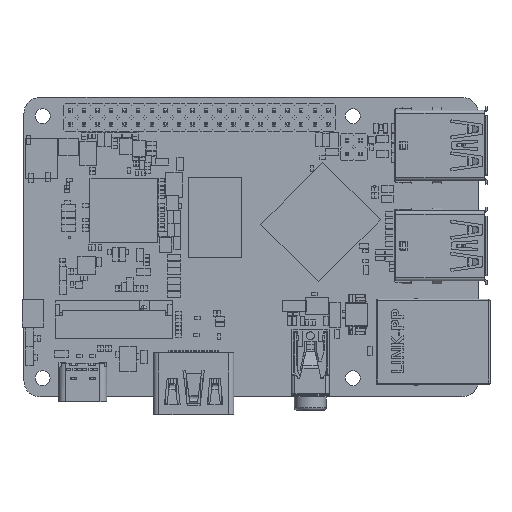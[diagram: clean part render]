
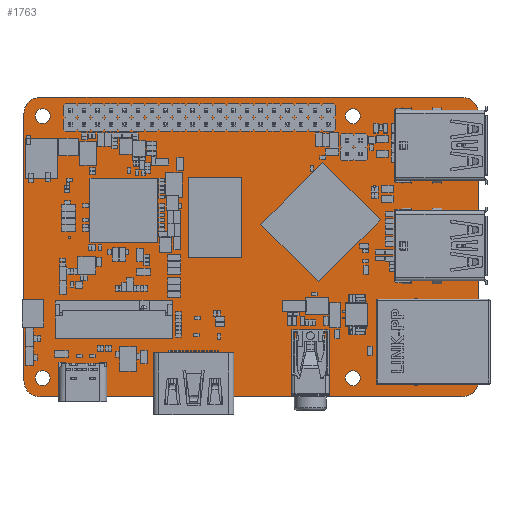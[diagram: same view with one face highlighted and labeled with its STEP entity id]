
A CAD part, top view. The second image highlights one B-rep face of the part: STEP entity #1763.
In plain terms, the highlighted planar face has unit normal (0, 0, 1).
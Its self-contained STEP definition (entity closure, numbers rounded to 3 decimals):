
#1253=CARTESIAN_POINT('',(-52.961,20.311,1.2));
#1254=DIRECTION('',(0.,0.,1.));
#1255=DIRECTION('',(0.,1.,0.));
#1256=AXIS2_PLACEMENT_3D('',#1253,#1254,#1255);
#1258=DIRECTION('',(-1.,0.,0.));
#1259=VECTOR('',#1258,79.032);
#1260=CARTESIAN_POINT('',(26.071,23.306,1.2));
#1261=LINE('',#1260,#1259);
#1262=CARTESIAN_POINT('',(26.071,20.333,1.2));
#1263=DIRECTION('',(0.,0.,1.));
#1264=DIRECTION('',(1.,0.,0.));
#1265=AXIS2_PLACEMENT_3D('',#1262,#1263,#1264);
#1267=DIRECTION('',(0.,1.,0.));
#1268=VECTOR('',#1267,49.938);
#1269=CARTESIAN_POINT('',(29.044,-29.605,1.2));
#1270=LINE('',#1269,#1268);
#1271=CARTESIAN_POINT('',(25.954,-29.605,1.2));
#1272=DIRECTION('',(0.,0.,1.));
#1273=DIRECTION('',(0.,-1.,0.));
#1274=AXIS2_PLACEMENT_3D('',#1271,#1272,#1273);
#1276=DIRECTION('',(1.,0.,0.));
#1277=VECTOR('',#1276,78.901);
#1278=CARTESIAN_POINT('',(-52.947,-32.694,1.2));
#1279=LINE('',#1278,#1277);
#1280=CARTESIAN_POINT('',(-52.947,-29.685,1.2));
#1281=DIRECTION('',(0.,0.,1.));
#1282=DIRECTION('',(-1.,0.,0.));
#1283=AXIS2_PLACEMENT_3D('',#1280,#1281,#1282);
#1285=DIRECTION('',(0.,-1.,0.));
#1286=VECTOR('',#1285,49.995);
#1287=CARTESIAN_POINT('',(-55.956,20.311,1.2));
#1288=LINE('',#1287,#1286);
#1289=CARTESIAN_POINT('',(-52.451,19.811,1.2));
#1290=DIRECTION('',(0.,0.,-1.));
#1291=DIRECTION('',(1.,0.,0.));
#1292=AXIS2_PLACEMENT_3D('',#1289,#1290,#1291);
#1294=CARTESIAN_POINT('',(-52.451,19.811,1.2));
#1295=DIRECTION('',(0.,0.,-1.));
#1296=DIRECTION('',(-1.,0.,0.));
#1297=AXIS2_PLACEMENT_3D('',#1294,#1295,#1296);
#1299=CARTESIAN_POINT('',(-52.458,-29.193,1.2));
#1300=DIRECTION('',(0.,0.,-1.));
#1301=DIRECTION('',(1.,0.,0.));
#1302=AXIS2_PLACEMENT_3D('',#1299,#1300,#1301);
#1304=CARTESIAN_POINT('',(-52.458,-29.193,1.2));
#1305=DIRECTION('',(0.,0.,-1.));
#1306=DIRECTION('',(-1.,0.,0.));
#1307=AXIS2_PLACEMENT_3D('',#1304,#1305,#1306);
#1309=CARTESIAN_POINT('',(5.543,19.808,1.2));
#1310=DIRECTION('',(0.,0.,-1.));
#1311=DIRECTION('',(1.,0.,0.));
#1312=AXIS2_PLACEMENT_3D('',#1309,#1310,#1311);
#1314=CARTESIAN_POINT('',(5.543,19.808,1.2));
#1315=DIRECTION('',(0.,0.,-1.));
#1316=DIRECTION('',(-1.,0.,0.));
#1317=AXIS2_PLACEMENT_3D('',#1314,#1315,#1316);
#1319=CARTESIAN_POINT('',(5.543,-29.187,1.2));
#1320=DIRECTION('',(0.,0.,-1.));
#1321=DIRECTION('',(1.,0.,0.));
#1322=AXIS2_PLACEMENT_3D('',#1319,#1320,#1321);
#1324=CARTESIAN_POINT('',(5.543,-29.187,1.2));
#1325=DIRECTION('',(0.,0.,-1.));
#1326=DIRECTION('',(-1.,0.,0.));
#1327=AXIS2_PLACEMENT_3D('',#1324,#1325,#1326);
#1329=CARTESIAN_POINT('',(-49.15,-16.818,1.2));
#1330=DIRECTION('',(0.,0.,1.));
#1331=DIRECTION('',(1.,0.,0.));
#1332=AXIS2_PLACEMENT_3D('',#1329,#1330,#1331);
#1334=CARTESIAN_POINT('',(-49.15,-16.818,1.2));
#1335=DIRECTION('',(0.,0.,1.));
#1336=DIRECTION('',(-1.,0.,0.));
#1337=AXIS2_PLACEMENT_3D('',#1334,#1335,#1336);
#1339=CARTESIAN_POINT('',(-29.15,-16.818,1.2));
#1340=DIRECTION('',(0.,0.,1.));
#1341=DIRECTION('',(1.,0.,0.));
#1342=AXIS2_PLACEMENT_3D('',#1339,#1340,#1341);
#1344=CARTESIAN_POINT('',(-29.15,-16.818,1.2));
#1345=DIRECTION('',(0.,0.,1.));
#1346=DIRECTION('',(-1.,0.,0.));
#1347=AXIS2_PLACEMENT_3D('',#1344,#1345,#1346);
#1429=CARTESIAN_POINT('',(-52.961,23.306,1.2));
#1430=CARTESIAN_POINT('',(-55.956,20.311,1.2));
#1431=VERTEX_POINT('',#1429);
#1432=VERTEX_POINT('',#1430);
#1433=CARTESIAN_POINT('',(-55.956,-29.685,1.2));
#1434=VERTEX_POINT('',#1433);
#1435=CARTESIAN_POINT('',(-52.947,-32.694,1.2));
#1436=VERTEX_POINT('',#1435);
#1437=CARTESIAN_POINT('',(25.954,-32.694,1.2));
#1438=VERTEX_POINT('',#1437);
#1439=CARTESIAN_POINT('',(29.044,-29.605,1.2));
#1440=VERTEX_POINT('',#1439);
#1441=CARTESIAN_POINT('',(29.044,20.333,1.2));
#1442=VERTEX_POINT('',#1441);
#1443=CARTESIAN_POINT('',(26.071,23.306,1.2));
#1444=VERTEX_POINT('',#1443);
#1445=CARTESIAN_POINT('',(-51.051,19.811,1.2));
#1446=CARTESIAN_POINT('',(-53.851,19.811,1.2));
#1447=VERTEX_POINT('',#1445);
#1448=VERTEX_POINT('',#1446);
#1449=CARTESIAN_POINT('',(-51.058,-29.193,1.2));
#1450=CARTESIAN_POINT('',(-53.858,-29.193,1.2));
#1451=VERTEX_POINT('',#1449);
#1452=VERTEX_POINT('',#1450);
#1453=CARTESIAN_POINT('',(6.943,19.808,1.2));
#1454=CARTESIAN_POINT('',(4.143,19.808,1.2));
#1455=VERTEX_POINT('',#1453);
#1456=VERTEX_POINT('',#1454);
#1457=CARTESIAN_POINT('',(6.943,-29.187,1.2));
#1458=CARTESIAN_POINT('',(4.143,-29.187,1.2));
#1459=VERTEX_POINT('',#1457);
#1460=VERTEX_POINT('',#1458);
#1469=CARTESIAN_POINT('',(-48.3,-16.818,1.2));
#1470=CARTESIAN_POINT('',(-50.,-16.818,1.2));
#1471=VERTEX_POINT('',#1469);
#1472=VERTEX_POINT('',#1470);
#1473=CARTESIAN_POINT('',(-28.55,-16.818,1.2));
#1474=CARTESIAN_POINT('',(-29.75,-16.818,1.2));
#1475=VERTEX_POINT('',#1473);
#1476=VERTEX_POINT('',#1474);
#1712=CARTESIAN_POINT('',(0.,0.,1.2));
#1713=DIRECTION('',(0.,0.,1.));
#1714=DIRECTION('',(1.,0.,0.));
#1715=AXIS2_PLACEMENT_3D('',#1712,#1713,#1714);
#1716=PLANE('',#1715);
#1717=ORIENTED_EDGE('',*,*,#1552,.F.);
#1718=ORIENTED_EDGE('',*,*,#1574,.F.);
#1719=ORIENTED_EDGE('',*,*,#1595,.F.);
#1720=ORIENTED_EDGE('',*,*,#1616,.F.);
#1721=ORIENTED_EDGE('',*,*,#1637,.F.);
#1722=ORIENTED_EDGE('',*,*,#1658,.F.);
#1723=ORIENTED_EDGE('',*,*,#1679,.F.);
#1724=ORIENTED_EDGE('',*,*,#1699,.F.);
#1725=EDGE_LOOP('',(#1717,#1718,#1719,#1720,#1721,#1722,#1723,#1724));
#1726=FACE_OUTER_BOUND('',#1725,.F.);
#1728=ORIENTED_EDGE('',*,*,#1727,.F.);
#1730=ORIENTED_EDGE('',*,*,#1729,.F.);
#1731=EDGE_LOOP('',(#1728,#1730));
#1732=FACE_BOUND('',#1731,.F.);
#1734=ORIENTED_EDGE('',*,*,#1733,.F.);
#1736=ORIENTED_EDGE('',*,*,#1735,.F.);
#1737=EDGE_LOOP('',(#1734,#1736));
#1738=FACE_BOUND('',#1737,.F.);
#1740=ORIENTED_EDGE('',*,*,#1739,.F.);
#1742=ORIENTED_EDGE('',*,*,#1741,.F.);
#1743=EDGE_LOOP('',(#1740,#1742));
#1744=FACE_BOUND('',#1743,.F.);
#1746=ORIENTED_EDGE('',*,*,#1745,.F.);
#1748=ORIENTED_EDGE('',*,*,#1747,.F.);
#1749=EDGE_LOOP('',(#1746,#1748));
#1750=FACE_BOUND('',#1749,.F.);
#1752=ORIENTED_EDGE('',*,*,#1751,.T.);
#1754=ORIENTED_EDGE('',*,*,#1753,.T.);
#1755=EDGE_LOOP('',(#1752,#1754));
#1756=FACE_BOUND('',#1755,.F.);
#1758=ORIENTED_EDGE('',*,*,#1757,.T.);
#1760=ORIENTED_EDGE('',*,*,#1759,.T.);
#1761=EDGE_LOOP('',(#1758,#1760));
#1762=FACE_BOUND('',#1761,.F.);
#1763=ADVANCED_FACE('',(#1726,#1732,#1738,#1744,#1750,#1756,#1762),#1716,.T.);
#1257=CIRCLE('',#1256,2.995);
#1266=CIRCLE('',#1265,2.973);
#1275=CIRCLE('',#1274,3.09);
#1284=CIRCLE('',#1283,3.009);
#1293=CIRCLE('',#1292,1.4);
#1298=CIRCLE('',#1297,1.4);
#1303=CIRCLE('',#1302,1.4);
#1308=CIRCLE('',#1307,1.4);
#1313=CIRCLE('',#1312,1.4);
#1318=CIRCLE('',#1317,1.4);
#1323=CIRCLE('',#1322,1.4);
#1328=CIRCLE('',#1327,1.4);
#1333=CIRCLE('',#1332,0.85);
#1338=CIRCLE('',#1337,0.85);
#1343=CIRCLE('',#1342,0.6);
#1348=CIRCLE('',#1347,0.6);
#1552=EDGE_CURVE('',#1431,#1432,#1257,.T.);
#1574=EDGE_CURVE('',#1444,#1431,#1261,.T.);
#1595=EDGE_CURVE('',#1442,#1444,#1266,.T.);
#1616=EDGE_CURVE('',#1440,#1442,#1270,.T.);
#1637=EDGE_CURVE('',#1438,#1440,#1275,.T.);
#1658=EDGE_CURVE('',#1436,#1438,#1279,.T.);
#1679=EDGE_CURVE('',#1434,#1436,#1284,.T.);
#1699=EDGE_CURVE('',#1432,#1434,#1288,.T.);
#1727=EDGE_CURVE('',#1447,#1448,#1293,.T.);
#1729=EDGE_CURVE('',#1448,#1447,#1298,.T.);
#1733=EDGE_CURVE('',#1451,#1452,#1303,.T.);
#1735=EDGE_CURVE('',#1452,#1451,#1308,.T.);
#1739=EDGE_CURVE('',#1455,#1456,#1313,.T.);
#1741=EDGE_CURVE('',#1456,#1455,#1318,.T.);
#1745=EDGE_CURVE('',#1459,#1460,#1323,.T.);
#1747=EDGE_CURVE('',#1460,#1459,#1328,.T.);
#1751=EDGE_CURVE('',#1471,#1472,#1333,.T.);
#1753=EDGE_CURVE('',#1472,#1471,#1338,.T.);
#1757=EDGE_CURVE('',#1475,#1476,#1343,.T.);
#1759=EDGE_CURVE('',#1476,#1475,#1348,.T.);
